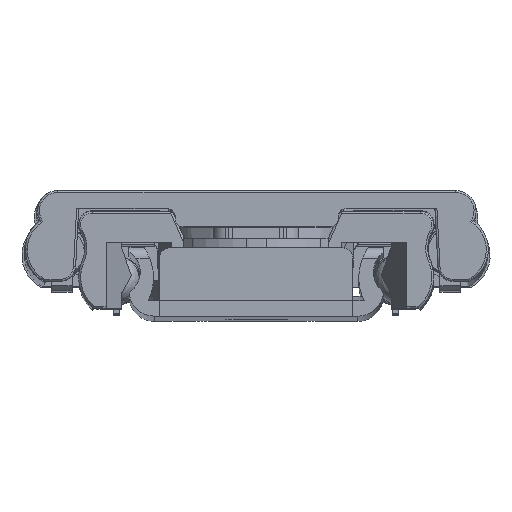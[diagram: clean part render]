
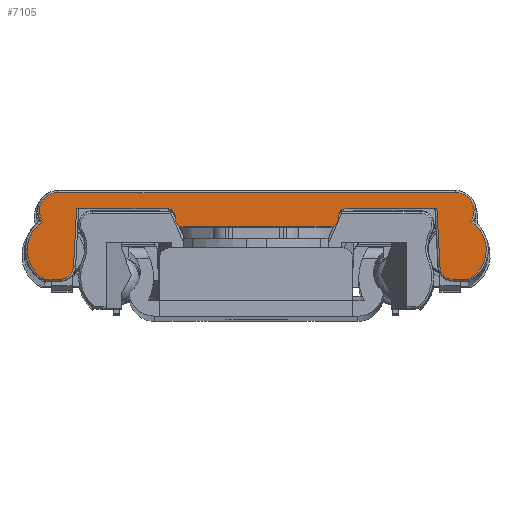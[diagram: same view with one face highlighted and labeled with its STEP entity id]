
A CAD part, top view. The second image highlights one B-rep face of the part: STEP entity #7105.
In plain terms, the highlighted planar face has unit normal (0, 0, 1) as drawn and (0, 0, -1) by its records, which use the part's own axes.
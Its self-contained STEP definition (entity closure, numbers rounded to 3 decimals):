
#6483=CARTESIAN_POINT('',(38.9,-13.718,0.0));
#6484=VERTEX_POINT('',#6483);
#6502=CARTESIAN_POINT('',(38.6,-8.,0.0));
#6503=VERTEX_POINT('',#6502);
#6511=CARTESIAN_POINT('',(38.6,-8.,0.0));
#6512=DIRECTION('',(0.052,-0.999,0.0));
#6513=VECTOR('',#6512,5.726);
#6514=LINE('',#6511,#6513);
#6515=EDGE_CURVE('',#6503,#6484,#6514,.T.);
#6525=CARTESIAN_POINT('',(40.198,-14.95,0.0));
#6526=VERTEX_POINT('',#6525);
#6544=CARTESIAN_POINT('',(40.198,-13.65,0.0));
#6545=DIRECTION('',(0.0,0.0,1.));
#6546=DIRECTION('',(-0.688,-0.725,0.0));
#6547=AXIS2_PLACEMENT_3D('',#6544,#6545,#6546);
#6548=CIRCLE('',#6547,1.3);
#6549=EDGE_CURVE('',#6484,#6526,#6548,.T.);
#6566=CARTESIAN_POINT('',(41.725,-14.95,0.0));
#6567=VERTEX_POINT('',#6566);
#6568=CARTESIAN_POINT('',(40.198,-14.95,0.0));
#6569=DIRECTION('',(1.0,0.0,0.0));
#6570=VECTOR('',#6569,1.527);
#6571=LINE('',#6568,#6570);
#6572=EDGE_CURVE('',#6526,#6567,#6571,.T.);
#6599=CARTESIAN_POINT('',(41.932,-9.272,0.0));
#6600=VERTEX_POINT('',#6599);
#6601=CARTESIAN_POINT('',(40.15,-12.05,0.0));
#6602=DIRECTION('',(0.0,0.0,1.));
#6603=DIRECTION('',(0.997,-0.072,0.0));
#6604=AXIS2_PLACEMENT_3D('',#6601,#6602,#6603);
#6605=CIRCLE('',#6604,3.3);
#6606=EDGE_CURVE('',#6567,#6600,#6605,.T.);
#6635=CARTESIAN_POINT('',(40.45,-6.45,0.0));
#6636=VERTEX_POINT('',#6635);
#6646=CARTESIAN_POINT('',(40.45,-8.25,0.0));
#6647=DIRECTION('',(0.0,0.0,1.0));
#6648=DIRECTION('',(0.861,0.509,0.0));
#6649=AXIS2_PLACEMENT_3D('',#6646,#6647,#6648);
#6650=CIRCLE('',#6649,1.8);
#6651=EDGE_CURVE('',#6600,#6636,#6650,.T.);
#6661=CARTESIAN_POINT('',(1.35,-6.45,0.0));
#6662=VERTEX_POINT('',#6661);
#6672=CARTESIAN_POINT('',(40.45,-6.45,0.0));
#6673=DIRECTION('',(-1.0,0.0,0.0));
#6674=VECTOR('',#6673,39.1);
#6675=LINE('',#6672,#6674);
#6676=EDGE_CURVE('',#6636,#6662,#6675,.T.);
#6696=CARTESIAN_POINT('',(-0.131,-9.272,0.0));
#6697=VERTEX_POINT('',#6696);
#6698=CARTESIAN_POINT('',(1.35,-8.25,0.0));
#6699=DIRECTION('',(0.0,0.0,1.0));
#6700=DIRECTION('',(-0.861,0.509,0.0));
#6701=AXIS2_PLACEMENT_3D('',#6698,#6699,#6700);
#6702=CIRCLE('',#6701,1.8);
#6703=EDGE_CURVE('',#6662,#6697,#6702,.T.);
#6730=CARTESIAN_POINT('',(0.075,-14.95,0.0));
#6731=VERTEX_POINT('',#6730);
#6732=CARTESIAN_POINT('',(1.65,-12.05,0.0));
#6733=DIRECTION('',(0.0,0.0,1.0));
#6734=DIRECTION('',(-0.997,-0.072,0.0));
#6735=AXIS2_PLACEMENT_3D('',#6732,#6733,#6734);
#6736=CIRCLE('',#6735,3.3);
#6737=EDGE_CURVE('',#6697,#6731,#6736,.T.);
#6772=CARTESIAN_POINT('',(1.602,-14.95,0.0));
#6773=VERTEX_POINT('',#6772);
#6783=CARTESIAN_POINT('',(0.075,-14.95,0.0));
#6784=DIRECTION('',(1.0,0.0,0.0));
#6785=VECTOR('',#6784,1.527);
#6786=LINE('',#6783,#6785);
#6787=EDGE_CURVE('',#6731,#6773,#6786,.T.);
#6797=CARTESIAN_POINT('',(2.9,-13.718,0.0));
#6798=VERTEX_POINT('',#6797);
#6816=CARTESIAN_POINT('',(1.602,-13.65,0.0));
#6817=DIRECTION('',(0.0,0.0,1.0));
#6818=DIRECTION('',(0.688,-0.725,0.0));
#6819=AXIS2_PLACEMENT_3D('',#6816,#6817,#6818);
#6820=CIRCLE('',#6819,1.3);
#6821=EDGE_CURVE('',#6773,#6798,#6820,.T.);
#6831=CARTESIAN_POINT('',(3.2,-8.,0.0));
#6832=VERTEX_POINT('',#6831);
#6849=CARTESIAN_POINT('',(2.9,-13.718,0.0));
#6850=DIRECTION('',(0.052,0.999,0.0));
#6851=VECTOR('',#6850,5.726);
#6852=LINE('',#6849,#6851);
#6853=EDGE_CURVE('',#6798,#6832,#6852,.T.);
#6980=CARTESIAN_POINT('',(28.1,-9.8,0.0));
#6981=VERTEX_POINT('',#6980);
#6988=CARTESIAN_POINT('',(28.9,-9.,0.0));
#6989=VERTEX_POINT('',#6988);
#6990=CARTESIAN_POINT('',(28.1,-9.0,0.0));
#6991=DIRECTION('',(0.0,0.0,1.0));
#6992=DIRECTION('',(0.707,-0.707,0.0));
#6993=AXIS2_PLACEMENT_3D('',#6990,#6991,#6992);
#6994=CIRCLE('',#6993,0.8);
#6995=EDGE_CURVE('',#6981,#6989,#6994,.T.);
#7012=CARTESIAN_POINT('',(28.9,-8.8,0.0));
#7013=VERTEX_POINT('',#7012);
#7014=CARTESIAN_POINT('',(28.9,-9.,0.0));
#7015=DIRECTION('',(0.0,1.0,0.0));
#7016=VECTOR('',#7015,0.2);
#7017=LINE('',#7014,#7016);
#7018=EDGE_CURVE('',#6989,#7013,#7017,.T.);
#7030=CARTESIAN_POINT('',(20.9,-8.942,0.0));
#7031=DIRECTION('',(0.0,0.0,1.0));
#7032=DIRECTION('',(1.0,0.0,0.0));
#7033=AXIS2_PLACEMENT_3D('',#7030,#7031,#7032);
#7034=PLANE('',#7033);
#7035=CARTESIAN_POINT('',(29.7,-8.,0.0));
#7036=VERTEX_POINT('',#7035);
#7037=CARTESIAN_POINT('',(29.7,-8.,0.0));
#7038=DIRECTION('',(1.0,0.0,0.0));
#7039=VECTOR('',#7038,8.9);
#7040=LINE('',#7037,#7039);
#7041=EDGE_CURVE('',#7036,#6503,#7040,.T.);
#7042=ORIENTED_EDGE('',*,*,#7041,.F.);
#7043=CARTESIAN_POINT('',(29.7,-8.8,0.0));
#7044=DIRECTION('',(0.0,0.0,-1.0));
#7045=DIRECTION('',(-0.707,0.707,0.0));
#7046=AXIS2_PLACEMENT_3D('',#7043,#7044,#7045);
#7047=CIRCLE('',#7046,0.8);
#7048=EDGE_CURVE('',#7013,#7036,#7047,.T.);
#7049=ORIENTED_EDGE('',*,*,#7048,.F.);
#7050=ORIENTED_EDGE('',*,*,#7018,.F.);
#7051=ORIENTED_EDGE('',*,*,#6995,.F.);
#7052=CARTESIAN_POINT('',(13.7,-9.8,0.0));
#7053=VERTEX_POINT('',#7052);
#7054=CARTESIAN_POINT('',(13.7,-9.8,0.0));
#7055=DIRECTION('',(1.0,0.0,0.0));
#7056=VECTOR('',#7055,14.4);
#7057=LINE('',#7054,#7056);
#7058=EDGE_CURVE('',#7053,#6981,#7057,.T.);
#7059=ORIENTED_EDGE('',*,*,#7058,.F.);
#7060=CARTESIAN_POINT('',(12.9,-9.,0.0));
#7061=VERTEX_POINT('',#7060);
#7062=CARTESIAN_POINT('',(13.7,-9.,0.0));
#7063=DIRECTION('',(0.0,0.0,1.));
#7064=DIRECTION('',(-0.707,-0.707,0.0));
#7065=AXIS2_PLACEMENT_3D('',#7062,#7063,#7064);
#7066=CIRCLE('',#7065,0.8);
#7067=EDGE_CURVE('',#7061,#7053,#7066,.T.);
#7068=ORIENTED_EDGE('',*,*,#7067,.F.);
#7069=CARTESIAN_POINT('',(12.9,-8.8,0.0));
#7070=VERTEX_POINT('',#7069);
#7071=CARTESIAN_POINT('',(12.9,-8.8,0.0));
#7072=DIRECTION('',(0.0,-1.0,0.0));
#7073=VECTOR('',#7072,0.2);
#7074=LINE('',#7071,#7073);
#7075=EDGE_CURVE('',#7070,#7061,#7074,.T.);
#7076=ORIENTED_EDGE('',*,*,#7075,.F.);
#7077=CARTESIAN_POINT('',(12.1,-8.0,0.0));
#7078=VERTEX_POINT('',#7077);
#7079=CARTESIAN_POINT('',(12.1,-8.8,0.0));
#7080=DIRECTION('',(0.0,0.0,-1.0));
#7081=DIRECTION('',(0.707,0.707,0.0));
#7082=AXIS2_PLACEMENT_3D('',#7079,#7080,#7081);
#7083=CIRCLE('',#7082,0.8);
#7084=EDGE_CURVE('',#7078,#7070,#7083,.T.);
#7085=ORIENTED_EDGE('',*,*,#7084,.F.);
#7086=CARTESIAN_POINT('',(3.2,-8.,0.0));
#7087=DIRECTION('',(1.0,0.0,0.0));
#7088=VECTOR('',#7087,8.9);
#7089=LINE('',#7086,#7088);
#7090=EDGE_CURVE('',#6832,#7078,#7089,.T.);
#7091=ORIENTED_EDGE('',*,*,#7090,.F.);
#7092=ORIENTED_EDGE('',*,*,#6853,.F.);
#7093=ORIENTED_EDGE('',*,*,#6821,.F.);
#7094=ORIENTED_EDGE('',*,*,#6787,.F.);
#7095=ORIENTED_EDGE('',*,*,#6737,.F.);
#7096=ORIENTED_EDGE('',*,*,#6703,.F.);
#7097=ORIENTED_EDGE('',*,*,#6676,.F.);
#7098=ORIENTED_EDGE('',*,*,#6651,.F.);
#7099=ORIENTED_EDGE('',*,*,#6606,.F.);
#7100=ORIENTED_EDGE('',*,*,#6572,.F.);
#7101=ORIENTED_EDGE('',*,*,#6549,.F.);
#7102=ORIENTED_EDGE('',*,*,#6515,.F.);
#7103=EDGE_LOOP('',(#7042,#7049,#7050,#7051,#7059,#7068,#7076,#7085,#7091,#7092,#7093,#7094,#7095,#7096,#7097,#7098,#7099,#7100,#7101,#7102));
#7104=FACE_OUTER_BOUND('',#7103,.T.);
#7105=ADVANCED_FACE('',(#7104),#7034,.F.);
